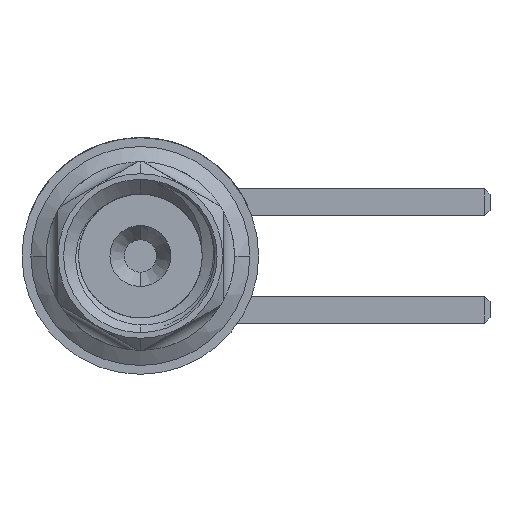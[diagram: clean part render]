
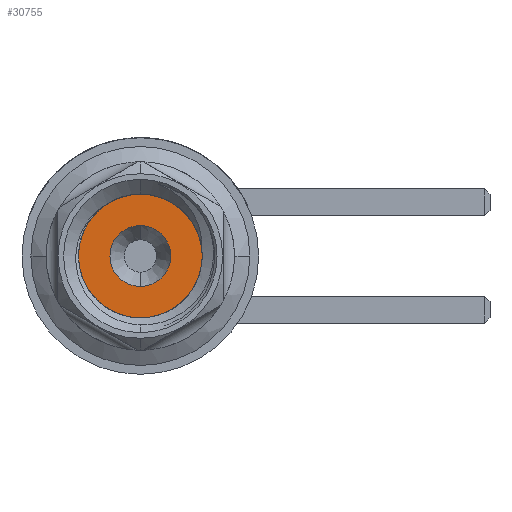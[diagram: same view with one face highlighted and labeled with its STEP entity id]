
A CAD part, left-side view. The second image highlights one B-rep face of the part: STEP entity #30755.
In plain terms, the highlighted planar face has unit normal (-1, 0, 0).
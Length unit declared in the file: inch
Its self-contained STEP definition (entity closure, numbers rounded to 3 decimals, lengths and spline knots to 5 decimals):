
#227 = DIRECTION ( 'NONE',  ( -1., 0., 0. ) ) ;
#1650 = DIRECTION ( 'NONE',  ( 1., 0., 0. ) ) ;
#1671 = CIRCLE ( 'NONE', #29056, 0.02828 ) ;
#4991 = EDGE_CURVE ( 'NONE', #64943, #12808, #61920, .T. ) ;
#5011 = PLANE ( 'NONE',  #40529 ) ;
#5648 = FACE_OUTER_BOUND ( 'NONE', #15407, .T. ) ;
#6943 = CARTESIAN_POINT ( 'NONE',  ( 0.18, 0., 0. ) ) ;
#8962 = CARTESIAN_POINT ( 'NONE',  ( 0.18, 0., -0.02828 ) ) ;
#11839 = ORIENTED_EDGE ( 'NONE', *, *, #4991, .T. ) ;
#12808 = VERTEX_POINT ( 'NONE', #24341 ) ;
#12971 = ORIENTED_EDGE ( 'NONE', *, *, #47925, .F. ) ;
#13516 = CARTESIAN_POINT ( 'NONE',  ( 0.18, 0., 0. ) ) ;
#15407 = EDGE_LOOP ( 'NONE', ( #24184, #11839 ) ) ;
#16557 = VERTEX_POINT ( 'NONE', #22271 ) ;
#17621 = ORIENTED_EDGE ( 'NONE', *, *, #42922, .F. ) ;
#18786 = DIRECTION ( 'NONE',  ( -1., 0., 0. ) ) ;
#20566 = DIRECTION ( 'NONE',  ( -1., 0., 0. ) ) ;
#21753 = DIRECTION ( 'NONE',  ( 0., 0., 1. ) ) ;
#22271 = CARTESIAN_POINT ( 'NONE',  ( 0.18, 0., 0.02828 ) ) ;
#23308 = AXIS2_PLACEMENT_3D ( 'NONE', #34241, #227, #55663 ) ;
#24184 = ORIENTED_EDGE ( 'NONE', *, *, #42368, .T. ) ;
#24341 = CARTESIAN_POINT ( 'NONE',  ( 0.18, 0., 0.0575 ) ) ;
#25375 = FACE_BOUND ( 'NONE', #54117, .T. ) ;
#29056 = AXIS2_PLACEMENT_3D ( 'NONE', #6943, #62717, #21753 ) ;
#30755 = ADVANCED_FACE ( 'NONE', ( #25375, #5648 ), #5011, .F. ) ;
#34241 = CARTESIAN_POINT ( 'NONE',  ( 0.18, 0., 0. ) ) ;
#36679 = CARTESIAN_POINT ( 'NONE',  ( 0.18, 0.02828, 0. ) ) ;
#37080 = CIRCLE ( 'NONE', #23308, 0.0575 ) ;
#40529 = AXIS2_PLACEMENT_3D ( 'NONE', #36679, #1650, #62381 ) ;
#40765 = DIRECTION ( 'NONE',  ( 0., 0., 1. ) ) ;
#42368 = EDGE_CURVE ( 'NONE', #12808, #64943, #37080, .T. ) ;
#42922 = EDGE_CURVE ( 'NONE', #16557, #45065, #59201, .T. ) ;
#45065 = VERTEX_POINT ( 'NONE', #8962 ) ;
#46559 = AXIS2_PLACEMENT_3D ( 'NONE', #13516, #18786, #59394 ) ;
#47251 = CARTESIAN_POINT ( 'NONE',  ( 0.18, 0., 0. ) ) ;
#47925 = EDGE_CURVE ( 'NONE', #45065, #16557, #1671, .T. ) ;
#52330 = CARTESIAN_POINT ( 'NONE',  ( 0.18, 0., -0.0575 ) ) ;
#54117 = EDGE_LOOP ( 'NONE', ( #17621, #12971 ) ) ;
#54607 = AXIS2_PLACEMENT_3D ( 'NONE', #47251, #20566, #40765 ) ;
#55663 = DIRECTION ( 'NONE',  ( 0., 0., 1. ) ) ;
#59201 = CIRCLE ( 'NONE', #46559, 0.02828 ) ;
#59394 = DIRECTION ( 'NONE',  ( 0., 0., 1. ) ) ;
#61920 = CIRCLE ( 'NONE', #54607, 0.0575 ) ;
#62381 = DIRECTION ( 'NONE',  ( 0., 0., -1. ) ) ;
#62717 = DIRECTION ( 'NONE',  ( -1., 0., 0. ) ) ;
#64943 = VERTEX_POINT ( 'NONE', #52330 ) ;
